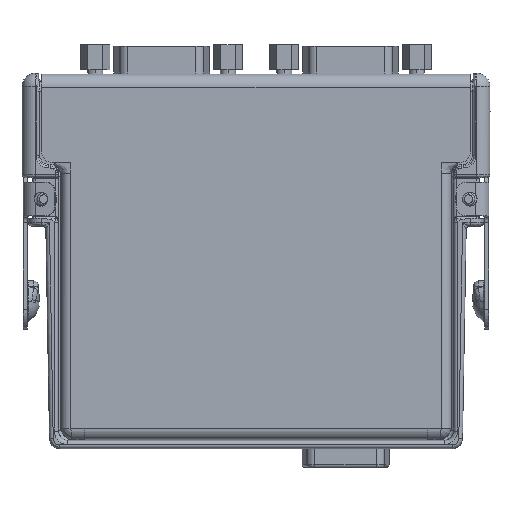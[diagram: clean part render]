
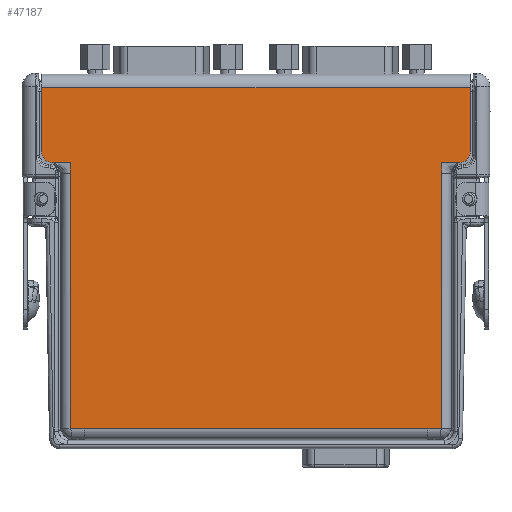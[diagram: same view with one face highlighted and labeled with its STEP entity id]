
A CAD part, left-side view. The second image highlights one B-rep face of the part: STEP entity #47187.
In plain terms, the highlighted planar face has unit normal (-1, 0, 0).
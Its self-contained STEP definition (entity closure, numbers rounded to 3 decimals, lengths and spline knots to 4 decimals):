
#17270=DIRECTION('',(0.,-1.,0.));
#17271=VECTOR('',#17270,2.543);
#17272=CARTESIAN_POINT('',(-0.4475,1.2715,0.146));
#17273=LINE('',#17272,#17271);
#17282=DIRECTION('',(0.,0.,-1.));
#17283=VECTOR('',#17282,0.476);
#17284=CARTESIAN_POINT('',(-0.4475,1.5895,2.676));
#17285=LINE('',#17284,#17283);
#17286=DIRECTION('',(0.,0.,1.));
#17287=VECTOR('',#17286,0.476);
#17288=CARTESIAN_POINT('',(-0.4475,-1.5895,2.2));
#17289=LINE('',#17288,#17287);
#17290=DIRECTION('',(0.,0.,1.));
#17291=VECTOR('',#17290,0.079);
#17292=CARTESIAN_POINT('',(-0.4475,-1.3765,2.041));
#17293=LINE('',#17292,#17291);
#17294=DIRECTION('',(0.,-1.,0.));
#17295=VECTOR('',#17294,0.105);
#17296=CARTESIAN_POINT('',(-0.4475,-1.2715,0.146));
#17297=LINE('',#17296,#17295);
#17298=DIRECTION('',(0.,-1.,0.));
#17299=VECTOR('',#17298,0.105);
#17300=CARTESIAN_POINT('',(-0.4475,1.3765,0.146));
#17301=LINE('',#17300,#17299);
#17302=DIRECTION('',(0.,0.,1.));
#17303=VECTOR('',#17302,0.079);
#17304=CARTESIAN_POINT('',(-0.4475,1.3765,2.041));
#17305=LINE('',#17304,#17303);
#17319=CARTESIAN_POINT('',(-0.4475,1.5095,2.2));
#17320=DIRECTION('',(-1.,0.,0.));
#17321=DIRECTION('',(0.,1.,0.));
#17322=AXIS2_PLACEMENT_3D('',#17319,#17320,#17321);
#17324=DIRECTION('',(0.,-1.,0.));
#17325=VECTOR('',#17324,0.133);
#17326=CARTESIAN_POINT('',(-0.4475,1.5095,2.12));
#17327=LINE('',#17326,#17325);
#17344=DIRECTION('',(0.,0.,1.));
#17345=VECTOR('',#17344,1.895);
#17346=CARTESIAN_POINT('',(-0.4475,1.3765,0.146));
#17347=LINE('',#17346,#17345);
#17799=DIRECTION('',(0.,0.,1.));
#17800=VECTOR('',#17799,1.895);
#17801=CARTESIAN_POINT('',(-0.4475,-1.3765,0.146));
#17802=LINE('',#17801,#17800);
#17834=DIRECTION('',(0.,-1.,0.));
#17835=VECTOR('',#17834,0.133);
#17836=CARTESIAN_POINT('',(-0.4475,-1.3765,2.12));
#17837=LINE('',#17836,#17835);
#17851=CARTESIAN_POINT('',(-0.4475,-1.5095,2.2));
#17852=DIRECTION('',(-1.,0.,0.));
#17853=DIRECTION('',(0.,0.,-1.));
#17854=AXIS2_PLACEMENT_3D('',#17851,#17852,#17853);
#17873=DIRECTION('',(0.,-1.,0.));
#17874=VECTOR('',#17873,3.179);
#17875=CARTESIAN_POINT('',(-0.4475,1.5895,2.676));
#17876=LINE('',#17875,#17874);
#24943=CARTESIAN_POINT('',(-0.4475,-1.5895,2.676));
#24944=VERTEX_POINT('',#24943);
#24945=CARTESIAN_POINT('',(-0.4475,1.5895,2.676));
#24946=VERTEX_POINT('',#24945);
#24975=CARTESIAN_POINT('',(-0.4475,1.2715,0.146));
#24976=CARTESIAN_POINT('',(-0.4475,-1.2715,0.146));
#24977=VERTEX_POINT('',#24975);
#24978=VERTEX_POINT('',#24976);
#24987=CARTESIAN_POINT('',(-0.4475,-1.3765,0.146));
#24988=VERTEX_POINT('',#24987);
#24999=CARTESIAN_POINT('',(-0.4475,1.3765,0.146));
#25000=VERTEX_POINT('',#24999);
#25048=CARTESIAN_POINT('',(-0.4475,1.5095,2.12));
#25050=VERTEX_POINT('',#25048);
#25053=CARTESIAN_POINT('',(-0.4475,1.5895,2.2));
#25054=VERTEX_POINT('',#25053);
#25056=CARTESIAN_POINT('',(-0.4475,-1.5895,2.2));
#25058=VERTEX_POINT('',#25056);
#25061=CARTESIAN_POINT('',(-0.4475,-1.5095,2.12));
#25062=VERTEX_POINT('',#25061);
#25075=CARTESIAN_POINT('',(-0.4475,-1.3765,2.041));
#25076=VERTEX_POINT('',#25075);
#25079=CARTESIAN_POINT('',(-0.4475,-1.3765,2.12));
#25080=VERTEX_POINT('',#25079);
#25087=CARTESIAN_POINT('',(-0.4475,1.3765,2.041));
#25088=CARTESIAN_POINT('',(-0.4475,1.3765,2.12));
#25089=VERTEX_POINT('',#25087);
#25090=VERTEX_POINT('',#25088);
#47154=CARTESIAN_POINT('',(-0.4475,0.,1.421));
#47155=DIRECTION('',(-1.,0.,0.));
#47156=DIRECTION('',(0.,1.,0.));
#47157=AXIS2_PLACEMENT_3D('',#47154,#47155,#47156);
#47158=PLANE('',#47157);
#47160=ORIENTED_EDGE('',*,*,#47159,.F.);
#47162=ORIENTED_EDGE('',*,*,#47161,.F.);
#47164=ORIENTED_EDGE('',*,*,#47163,.T.);
#47166=ORIENTED_EDGE('',*,*,#47165,.F.);
#47168=ORIENTED_EDGE('',*,*,#47167,.F.);
#47170=ORIENTED_EDGE('',*,*,#47169,.F.);
#47172=ORIENTED_EDGE('',*,*,#47171,.F.);
#47174=ORIENTED_EDGE('',*,*,#47173,.F.);
#47175=ORIENTED_EDGE('',*,*,#47144,.F.);
#47176=ORIENTED_EDGE('',*,*,#47120,.F.);
#47178=ORIENTED_EDGE('',*,*,#47177,.F.);
#47180=ORIENTED_EDGE('',*,*,#47179,.T.);
#47182=ORIENTED_EDGE('',*,*,#47181,.T.);
#47184=ORIENTED_EDGE('',*,*,#47183,.F.);
#47185=EDGE_LOOP('',(#47160,#47162,#47164,#47166,#47168,#47170,#47172,#47174,
#47175,#47176,#47178,#47180,#47182,#47184));
#47186=FACE_OUTER_BOUND('',#47185,.F.);
#47187=ADVANCED_FACE('',(#47186),#47158,.T.);
#17323=CIRCLE('',#17322,0.08);
#17855=CIRCLE('',#17854,0.08);
#47120=EDGE_CURVE('',#24977,#24978,#17273,.T.);
#47144=EDGE_CURVE('',#24978,#24988,#17297,.T.);
#47159=EDGE_CURVE('',#25054,#25050,#17323,.T.);
#47161=EDGE_CURVE('',#24946,#25054,#17285,.T.);
#47163=EDGE_CURVE('',#24946,#24944,#17876,.T.);
#47165=EDGE_CURVE('',#25058,#24944,#17289,.T.);
#47167=EDGE_CURVE('',#25062,#25058,#17855,.T.);
#47169=EDGE_CURVE('',#25080,#25062,#17837,.T.);
#47171=EDGE_CURVE('',#25076,#25080,#17293,.T.);
#47173=EDGE_CURVE('',#24988,#25076,#17802,.T.);
#47177=EDGE_CURVE('',#25000,#24977,#17301,.T.);
#47179=EDGE_CURVE('',#25000,#25089,#17347,.T.);
#47181=EDGE_CURVE('',#25089,#25090,#17305,.T.);
#47183=EDGE_CURVE('',#25050,#25090,#17327,.T.);
